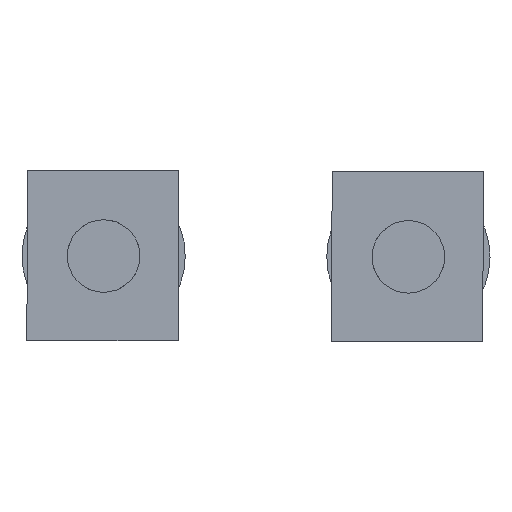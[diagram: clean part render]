
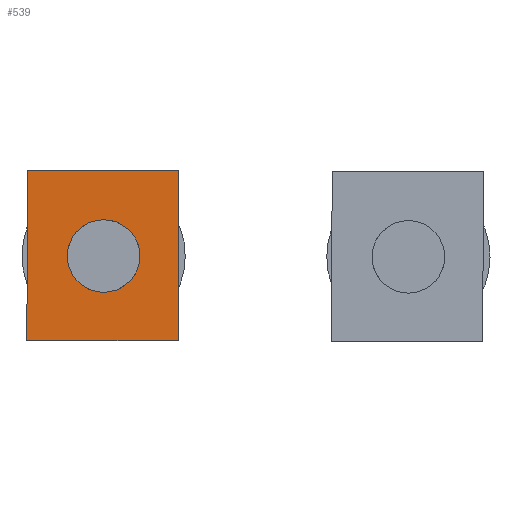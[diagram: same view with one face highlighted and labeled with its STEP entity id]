
A CAD part, front view. The second image highlights one B-rep face of the part: STEP entity #539.
In plain terms, the highlighted planar face has unit normal (0, -1, 0).
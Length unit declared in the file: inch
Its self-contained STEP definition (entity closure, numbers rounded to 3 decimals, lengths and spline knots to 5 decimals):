
#5 = AXIS2_PLACEMENT_3D ( 'NONE', #493, #603, #1198 ) ;
#25 = ORIENTED_EDGE ( 'NONE', *, *, #1054, .T. ) ;
#39 = EDGE_CURVE ( 'NONE', #1350, #1271, #1298, .T. ) ;
#92 = CARTESIAN_POINT ( 'NONE',  ( 0.49809, 0., 0.55118 ) ) ;
#138 = VERTEX_POINT ( 'NONE', #1230 ) ;
#169 = CARTESIAN_POINT ( 'NONE',  ( 0.49809, 0., 0.55118 ) ) ;
#200 = ORIENTED_EDGE ( 'NONE', *, *, #1134, .F. ) ;
#201 = DIRECTION ( 'NONE',  ( 1., 0., 0. ) ) ;
#331 = LINE ( 'NONE', #990, #387 ) ;
#387 = VECTOR ( 'NONE', #771, 39.37008 ) ;
#457 = CIRCLE ( 'NONE', #1206, 0.23622 ) ;
#493 = CARTESIAN_POINT ( 'NONE',  ( 0., 0., 1.10787 ) ) ;
#512 = DIRECTION ( 'NONE',  ( 0., 0., 1. ) ) ;
#532 = DIRECTION ( 'NONE',  ( 0., 0., 1. ) ) ;
#539 = ADVANCED_FACE ( 'NONE', ( #1305, #746 ), #1167, .F. ) ;
#552 = VECTOR ( 'NONE', #1062, 39.37008 ) ;
#553 = CARTESIAN_POINT ( 'NONE',  ( 0., 0., 1.10787 ) ) ;
#577 = VERTEX_POINT ( 'NONE', #830 ) ;
#598 = EDGE_CURVE ( 'NONE', #138, #724, #730, .T. ) ;
#603 = DIRECTION ( 'NONE',  ( 0., 1., 0. ) ) ;
#621 = CARTESIAN_POINT ( 'NONE',  ( 0.49809, 0., 0.31496 ) ) ;
#622 = DIRECTION ( 'NONE',  ( 0., 1., 0. ) ) ;
#626 = CARTESIAN_POINT ( 'NONE',  ( 0., 0., 0. ) ) ;
#630 = ORIENTED_EDGE ( 'NONE', *, *, #39, .T. ) ;
#665 = EDGE_CURVE ( 'NONE', #1271, #1350, #457, .T. ) ;
#686 = VERTEX_POINT ( 'NONE', #997 ) ;
#724 = VERTEX_POINT ( 'NONE', #802 ) ;
#730 = LINE ( 'NONE', #626, #939 ) ;
#746 = FACE_OUTER_BOUND ( 'NONE', #810, .T. ) ;
#752 = ORIENTED_EDGE ( 'NONE', *, *, #665, .T. ) ;
#767 = LINE ( 'NONE', #553, #1335 ) ;
#771 = DIRECTION ( 'NONE',  ( 0., 0., -1. ) ) ;
#772 = DIRECTION ( 'NONE',  ( 0., 1., 0. ) ) ;
#784 = CARTESIAN_POINT ( 'NONE',  ( 0.49809, 0., 0.7874 ) ) ;
#802 = CARTESIAN_POINT ( 'NONE',  ( 0.98425, 0., 0. ) ) ;
#810 = EDGE_LOOP ( 'NONE', ( #915, #200, #1047, #25 ) ) ;
#830 = CARTESIAN_POINT ( 'NONE',  ( 0.98425, 0., 1.10787 ) ) ;
#867 = AXIS2_PLACEMENT_3D ( 'NONE', #169, #622, #512 ) ;
#915 = ORIENTED_EDGE ( 'NONE', *, *, #598, .T. ) ;
#939 = VECTOR ( 'NONE', #1182, 39.37008 ) ;
#940 = LINE ( 'NONE', #1396, #552 ) ;
#990 = CARTESIAN_POINT ( 'NONE',  ( 0.98425, 0., 1.10787 ) ) ;
#997 = CARTESIAN_POINT ( 'NONE',  ( 0., 0., 1.10787 ) ) ;
#1047 = ORIENTED_EDGE ( 'NONE', *, *, #1101, .F. ) ;
#1054 = EDGE_CURVE ( 'NONE', #686, #138, #940, .T. ) ;
#1062 = DIRECTION ( 'NONE',  ( 0., 0., -1. ) ) ;
#1101 = EDGE_CURVE ( 'NONE', #686, #577, #767, .T. ) ;
#1134 = EDGE_CURVE ( 'NONE', #577, #724, #331, .T. ) ;
#1167 = PLANE ( 'NONE',  #5 ) ;
#1182 = DIRECTION ( 'NONE',  ( 1., 0., 0. ) ) ;
#1198 = DIRECTION ( 'NONE',  ( 0., 0., 1. ) ) ;
#1206 = AXIS2_PLACEMENT_3D ( 'NONE', #92, #772, #532 ) ;
#1230 = CARTESIAN_POINT ( 'NONE',  ( 0., 0., 0. ) ) ;
#1269 = EDGE_LOOP ( 'NONE', ( #752, #630 ) ) ;
#1271 = VERTEX_POINT ( 'NONE', #784 ) ;
#1298 = CIRCLE ( 'NONE', #867, 0.23622 ) ;
#1305 = FACE_BOUND ( 'NONE', #1269, .T. ) ;
#1335 = VECTOR ( 'NONE', #201, 39.37008 ) ;
#1350 = VERTEX_POINT ( 'NONE', #621 ) ;
#1396 = CARTESIAN_POINT ( 'NONE',  ( 0., 0., 1.10787 ) ) ;
